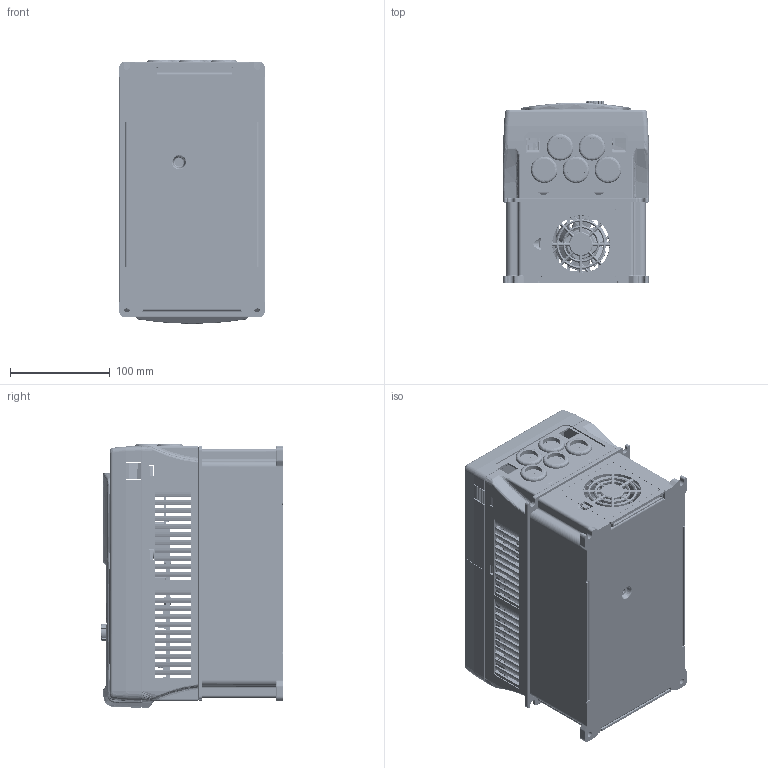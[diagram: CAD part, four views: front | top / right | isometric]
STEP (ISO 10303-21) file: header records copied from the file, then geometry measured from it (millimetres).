
FILE_DESCRIPTION (( 'STEP AP203' ), '1' );
FILE_NAME ('UMI-[0040~0055]EU-B5_UMI-[0015~0022]CU-B5.STEP', '2020-03-29T14:04:03', ( '' ), ( '' ), 'SwSTEP 2.0', 'SolidWorks 2017', '' );
FILE_SCHEMA (( 'CONFIG_CONTROL_DESIGN' ));
Length unit declared in the file: millimetre
Products named in the file (36): PRT-0014; PRT-0013; PRT-0011; PRT-006; PRT-008; PRT-0012; PRT-002; UMI-[0040~0055]EU-B5_UMI-[0015~0022]CU-B5; PRT-0010; PRT-003; PRT-004; PRT-009; PRT-007; PRT-0015; PRT-001; PRT-005; ASM_001
Assembly tree (20 placements, depth 3):
  PRT-0014
  PRT-0013
  PRT-008
  PRT-0012
  PRT-002
Bounding box: 146 x 183.05 x 264.73 mm (x, y, z)
Volume: 662239.8 mm3; surface area: 771432.4 mm2
Topology: 23 solids, 24 shells, 6994 faces, 20135 edges, 13051 vertices
Faces by surface type: plane 3656, cylinder 2080, bspline 1051, cone 191, torus 16
Entity records: 290676 total; most frequent: CARTESIAN_POINT 121269, ORIENTED_EDGE 39214, DIRECTION 28129, EDGE_CURVE 19609, VERTEX_POINT 12748, LINE 11477, VECTOR 11477, AXIS2_PLACEMENT_3D 8326
